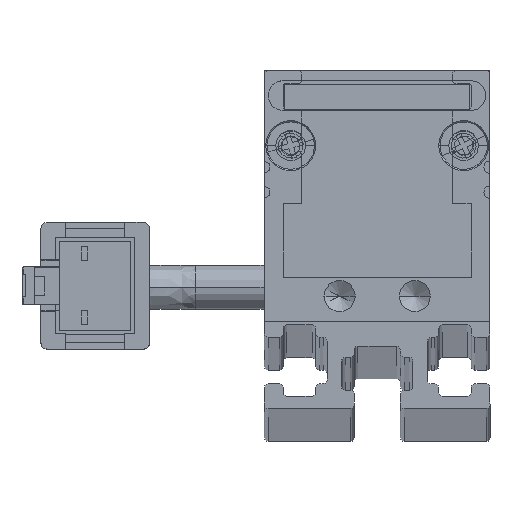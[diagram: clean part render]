
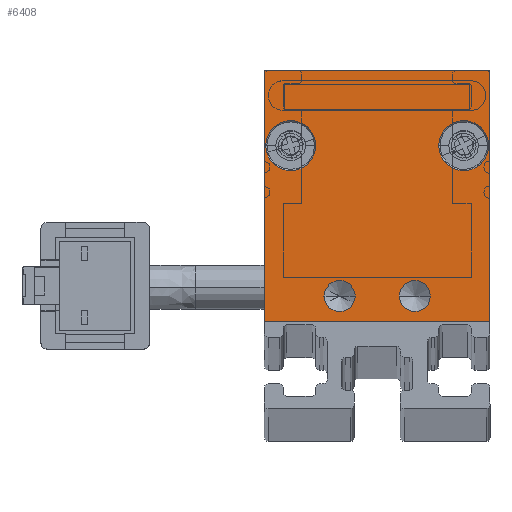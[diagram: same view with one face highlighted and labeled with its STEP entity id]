
A CAD part, top view. The second image highlights one B-rep face of the part: STEP entity #6408.
In plain terms, the highlighted planar face has unit normal (0, 0, 1) as drawn and (0, 0, -1) by its records, which use the part's own axes.
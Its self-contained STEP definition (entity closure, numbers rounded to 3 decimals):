
#201 = CARTESIAN_POINT ( 'NONE',  ( 9., 20., -2.5 ) ) ;
#644 = ORIENTED_EDGE ( 'NONE', *, *, #4576, .F. ) ;
#785 = DIRECTION ( 'NONE',  ( 0., 0., -1. ) ) ;
#1069 = LINE ( 'NONE', #4923, #3403 ) ;
#1130 = VERTEX_POINT ( 'NONE', #8547 ) ;
#1272 = EDGE_CURVE ( 'NONE', #2846, #5715, #8905, .T. ) ;
#1484 = AXIS2_PLACEMENT_3D ( 'NONE', #11139, #8123, #6171 ) ;
#1711 = VECTOR ( 'NONE', #5602, 1000. ) ;
#1777 = VERTEX_POINT ( 'NONE', #9138 ) ;
#1911 = LINE ( 'NONE', #3850, #4879 ) ;
#2080 = VERTEX_POINT ( 'NONE', #6280 ) ;
#2108 = CARTESIAN_POINT ( 'NONE',  ( -1.75, 2., -2.5 ) ) ;
#2292 = CARTESIAN_POINT ( 'NONE',  ( 4.9, 14., -2.5 ) ) ;
#2388 = EDGE_CURVE ( 'NONE', #4878, #8638, #10038, .T. ) ;
#2400 = EDGE_CURVE ( 'NONE', #3929, #8687, #10661, .T. ) ;
#2625 = ORIENTED_EDGE ( 'NONE', *, *, #9403, .F. ) ;
#2671 = DIRECTION ( 'NONE',  ( 0., 0., -1. ) ) ;
#2846 = VERTEX_POINT ( 'NONE', #4295 ) ;
#2932 = FACE_BOUND ( 'NONE', #8924, .T. ) ;
#2945 = ORIENTED_EDGE ( 'NONE', *, *, #2400, .F. ) ;
#3017 = CARTESIAN_POINT ( 'NONE',  ( -9., 0., -2.5 ) ) ;
#3174 = ORIENTED_EDGE ( 'NONE', *, *, #2388, .F. ) ;
#3178 = DIRECTION ( 'NONE',  ( 0., 0., -1. ) ) ;
#3201 = EDGE_CURVE ( 'NONE', #5708, #2846, #1069, .T. ) ;
#3262 = DIRECTION ( 'NONE',  ( -1., 0., 0. ) ) ;
#3291 = EDGE_CURVE ( 'NONE', #3988, #1777, #5863, .T. ) ;
#3403 = VECTOR ( 'NONE', #9709, 1000. ) ;
#3404 = CIRCLE ( 'NONE', #12488, 1.25 ) ;
#3424 = DIRECTION ( 'NONE',  ( -1., 0., 0. ) ) ;
#3469 = ORIENTED_EDGE ( 'NONE', *, *, #11570, .F. ) ;
#3547 = CARTESIAN_POINT ( 'NONE',  ( -6.9, 14., -2.5 ) ) ;
#3810 = AXIS2_PLACEMENT_3D ( 'NONE', #3547, #2671, #8409 ) ;
#3850 = CARTESIAN_POINT ( 'NONE',  ( -9., 20., -2.5 ) ) ;
#3929 = VERTEX_POINT ( 'NONE', #11933 ) ;
#3988 = VERTEX_POINT ( 'NONE', #2292 ) ;
#4047 = DIRECTION ( 'NONE',  ( 0., 1., 0. ) ) ;
#4288 = DIRECTION ( 'NONE',  ( 0., 0., -1. ) ) ;
#4295 = CARTESIAN_POINT ( 'NONE',  ( 9., 0., -2.5 ) ) ;
#4384 = CARTESIAN_POINT ( 'NONE',  ( 6.9, 14., -2.5 ) ) ;
#4576 = EDGE_CURVE ( 'NONE', #5715, #5430, #1911, .T. ) ;
#4642 = AXIS2_PLACEMENT_3D ( 'NONE', #4384, #7996, #11834 ) ;
#4878 = VERTEX_POINT ( 'NONE', #6798 ) ;
#4879 = VECTOR ( 'NONE', #6631, 1000. ) ;
#4897 = FACE_OUTER_BOUND ( 'NONE', #8984, .T. ) ;
#4923 = CARTESIAN_POINT ( 'NONE',  ( -9., 0., -2.5 ) ) ;
#5319 = CIRCLE ( 'NONE', #9954, 1.25 ) ;
#5430 = VERTEX_POINT ( 'NONE', #7305 ) ;
#5602 = DIRECTION ( 'NONE',  ( 0., -1., 0. ) ) ;
#5627 = DIRECTION ( 'NONE',  ( -1., 0., 0. ) ) ;
#5708 = VERTEX_POINT ( 'NONE', #3017 ) ;
#5715 = VERTEX_POINT ( 'NONE', #6222 ) ;
#5846 = PLANE ( 'NONE',  #9538 ) ;
#5863 = CIRCLE ( 'NONE', #4642, 2. ) ;
#5873 = AXIS2_PLACEMENT_3D ( 'NONE', #10910, #4288, #10021 ) ;
#5897 = DIRECTION ( 'NONE',  ( 0., 0., -1. ) ) ;
#5921 = ORIENTED_EDGE ( 'NONE', *, *, #1272, .F. ) ;
#6044 = EDGE_LOOP ( 'NONE', ( #8584, #3174 ) ) ;
#6171 = DIRECTION ( 'NONE',  ( -1., 0., 0. ) ) ;
#6183 = ORIENTED_EDGE ( 'NONE', *, *, #7496, .F. ) ;
#6222 = CARTESIAN_POINT ( 'NONE',  ( 9., 20., -2.5 ) ) ;
#6280 = CARTESIAN_POINT ( 'NONE',  ( 4.25, 2., -2.5 ) ) ;
#6408 = ADVANCED_FACE ( 'NONE', ( #2932, #6788, #8557, #9565, #4897 ), #5846, .F. ) ;
#6617 = VECTOR ( 'NONE', #4047, 1000. ) ;
#6631 = DIRECTION ( 'NONE',  ( -1., 0., 0. ) ) ;
#6706 = CIRCLE ( 'NONE', #7711, 2. ) ;
#6788 = FACE_BOUND ( 'NONE', #6044, .T. ) ;
#6798 = CARTESIAN_POINT ( 'NONE',  ( -4.9, 14., -2.5 ) ) ;
#6910 = DIRECTION ( 'NONE',  ( 0., 0., 1. ) ) ;
#7098 = EDGE_LOOP ( 'NONE', ( #2945, #8424 ) ) ;
#7305 = CARTESIAN_POINT ( 'NONE',  ( -9., 20., -2.5 ) ) ;
#7470 = CARTESIAN_POINT ( 'NONE',  ( -3., 2., -2.5 ) ) ;
#7496 = EDGE_CURVE ( 'NONE', #1130, #2080, #3404, .T. ) ;
#7711 = AXIS2_PLACEMENT_3D ( 'NONE', #10547, #9607, #5627 ) ;
#7996 = DIRECTION ( 'NONE',  ( 0., 0., -1. ) ) ;
#8123 = DIRECTION ( 'NONE',  ( 0., 0., -1. ) ) ;
#8304 = LINE ( 'NONE', #8434, #1711 ) ;
#8409 = DIRECTION ( 'NONE',  ( -1., 0., 0. ) ) ;
#8424 = ORIENTED_EDGE ( 'NONE', *, *, #8763, .F. ) ;
#8434 = CARTESIAN_POINT ( 'NONE',  ( -9., 20., -2.5 ) ) ;
#8547 = CARTESIAN_POINT ( 'NONE',  ( 1.75, 2., -2.5 ) ) ;
#8557 = FACE_BOUND ( 'NONE', #12290, .T. ) ;
#8584 = ORIENTED_EDGE ( 'NONE', *, *, #11433, .F. ) ;
#8638 = VERTEX_POINT ( 'NONE', #9735 ) ;
#8687 = VERTEX_POINT ( 'NONE', #2108 ) ;
#8763 = EDGE_CURVE ( 'NONE', #8687, #3929, #11283, .T. ) ;
#8905 = LINE ( 'NONE', #201, #6617 ) ;
#8924 = EDGE_LOOP ( 'NONE', ( #11498, #2625 ) ) ;
#8933 = CARTESIAN_POINT ( 'NONE',  ( 3., 2., -2.5 ) ) ;
#8984 = EDGE_LOOP ( 'NONE', ( #3469, #644, #5921, #10475 ) ) ;
#9138 = CARTESIAN_POINT ( 'NONE',  ( 8.9, 14., -2.5 ) ) ;
#9403 = EDGE_CURVE ( 'NONE', #1777, #3988, #6706, .T. ) ;
#9538 = AXIS2_PLACEMENT_3D ( 'NONE', #11630, #6910, #10749 ) ;
#9565 = FACE_BOUND ( 'NONE', #7098, .T. ) ;
#9607 = DIRECTION ( 'NONE',  ( 0., 0., -1. ) ) ;
#9709 = DIRECTION ( 'NONE',  ( 1., 0., 0. ) ) ;
#9735 = CARTESIAN_POINT ( 'NONE',  ( -8.9, 14., -2.5 ) ) ;
#9954 = AXIS2_PLACEMENT_3D ( 'NONE', #8933, #3178, #3424 ) ;
#10021 = DIRECTION ( 'NONE',  ( -1., 0., 0. ) ) ;
#10038 = CIRCLE ( 'NONE', #3810, 2. ) ;
#10475 = ORIENTED_EDGE ( 'NONE', *, *, #3201, .F. ) ;
#10547 = CARTESIAN_POINT ( 'NONE',  ( 6.9, 14., -2.5 ) ) ;
#10563 = CIRCLE ( 'NONE', #1484, 2. ) ;
#10611 = CARTESIAN_POINT ( 'NONE',  ( 3., 2., -2.5 ) ) ;
#10661 = CIRCLE ( 'NONE', #12270, 1.25 ) ;
#10749 = DIRECTION ( 'NONE',  ( 1., 0., 0. ) ) ;
#10910 = CARTESIAN_POINT ( 'NONE',  ( -3., 2., -2.5 ) ) ;
#11139 = CARTESIAN_POINT ( 'NONE',  ( -6.9, 14., -2.5 ) ) ;
#11283 = CIRCLE ( 'NONE', #5873, 1.25 ) ;
#11433 = EDGE_CURVE ( 'NONE', #8638, #4878, #10563, .T. ) ;
#11498 = ORIENTED_EDGE ( 'NONE', *, *, #3291, .F. ) ;
#11570 = EDGE_CURVE ( 'NONE', #5430, #5708, #8304, .T. ) ;
#11630 = CARTESIAN_POINT ( 'NONE',  ( 0., 0., -2.5 ) ) ;
#11678 = DIRECTION ( 'NONE',  ( -1., 0., 0. ) ) ;
#11834 = DIRECTION ( 'NONE',  ( -1., 0., 0. ) ) ;
#11902 = EDGE_CURVE ( 'NONE', #2080, #1130, #5319, .T. ) ;
#11933 = CARTESIAN_POINT ( 'NONE',  ( -4.25, 2., -2.5 ) ) ;
#12184 = ORIENTED_EDGE ( 'NONE', *, *, #11902, .F. ) ;
#12270 = AXIS2_PLACEMENT_3D ( 'NONE', #7470, #785, #3262 ) ;
#12290 = EDGE_LOOP ( 'NONE', ( #6183, #12184 ) ) ;
#12488 = AXIS2_PLACEMENT_3D ( 'NONE', #10611, #5897, #11678 ) ;
